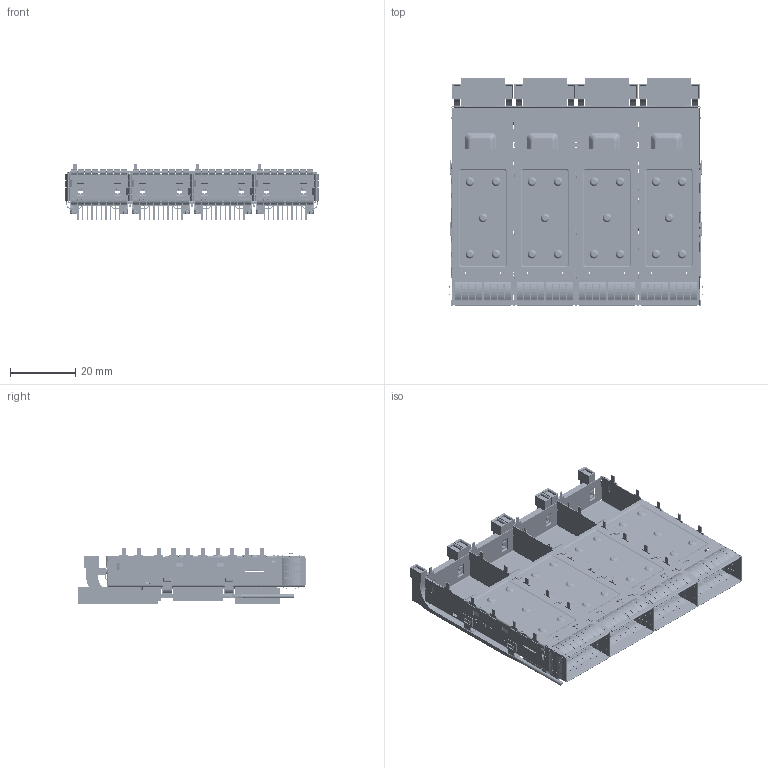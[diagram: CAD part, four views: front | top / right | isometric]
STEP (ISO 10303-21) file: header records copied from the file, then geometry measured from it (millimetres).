
FILE_DESCRIPTION((''),'2;1');
FILE_NAME('KEHU2','2025-06-09T10:45:29',('13823137'),(''),'CREO PARAMETRIC BY PTC INC, 2019471','CREO PARAMETRIC BY PTC INC, 2019471','');
FILE_SCHEMA(('CONFIG_CONTROL_DESIGN'));
Products named in the file (1): KEHU2
Bounding box: 77.85 x 69.88 x 17.35 mm (x, y, z)
Volume: 13841.6 mm3; surface area: 55681.5 mm2
Topology: 1 solids, 1 shells, 9510 faces, 25283 edges, 15343 vertices
Faces by surface type: plane 5065, cylinder 3127, bspline 902, torus 256, cone 144, sphere 16
Entity records: 321154 total; most frequent: CARTESIAN_POINT 86949, ORIENTED_EDGE 50566, DIRECTION 46961, EDGE_CURVE 25283, VECTOR 16685, LINE 16685, VERTEX_POINT 15343, AXIS2_PLACEMENT_3D 15138
